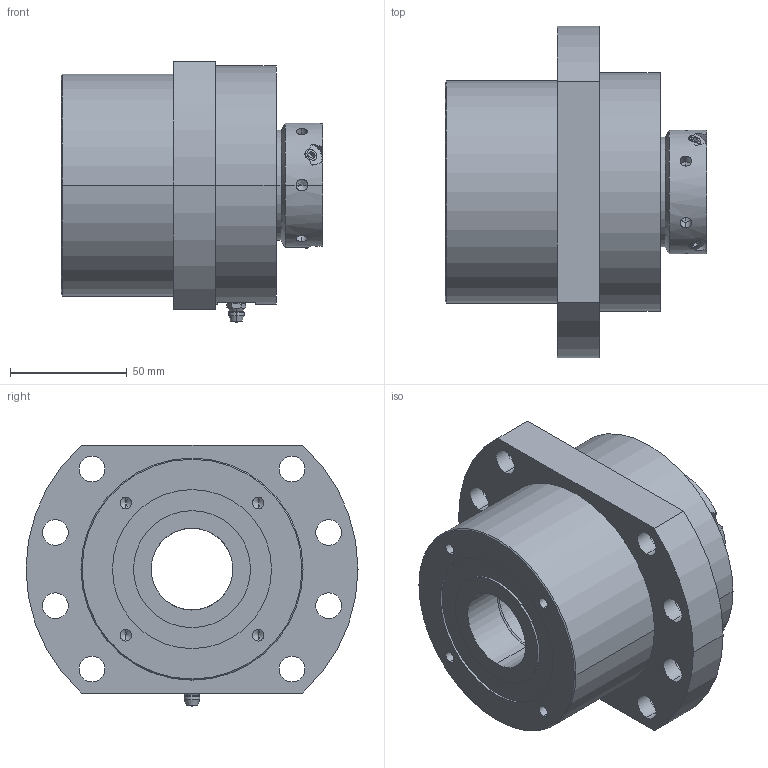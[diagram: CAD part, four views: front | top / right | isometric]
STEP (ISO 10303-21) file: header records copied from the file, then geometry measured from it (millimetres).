
FILE_DESCRIPTION (( 'STEP AP203' ), '1' );
FILE_NAME ('SWBK35G-DFD.STEP', '2018-09-15T05:07:39', ( '' ), ( '' ), 'SwSTEP 2.0', 'SolidWorks 2015', '' );
FILE_SCHEMA (( 'CONFIG_CONTROL_DESIGN' ));
Length unit declared in the file: millimetre
Products named in the file (1): SWBK35G-DFD
Bounding box: 112 x 142 x 111.9 mm (x, y, z)
Volume: 655506.3 mm3; surface area: 173198.2 mm2
Topology: 43 solids, 55 shells, 778 faces, 1893 edges, 1073 vertices
Faces by surface type: cylinder 256, plane 215, bspline 148, cone 123, torus 36
Entity records: 26043 total; most frequent: CARTESIAN_POINT 9325, DIRECTION 3541, ORIENTED_EDGE 3350, EDGE_CURVE 1675, AXIS2_PLACEMENT_3D 1478, VERTEX_POINT 1073, EDGE_LOOP 892, CIRCLE 847
